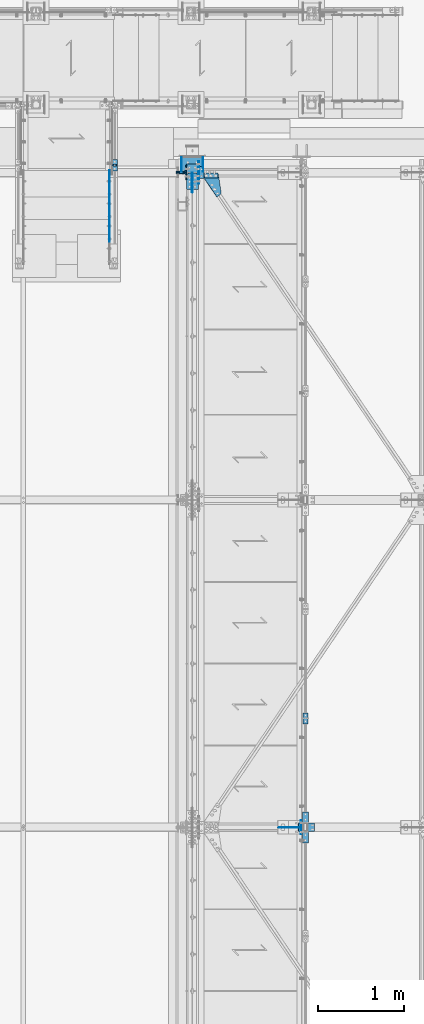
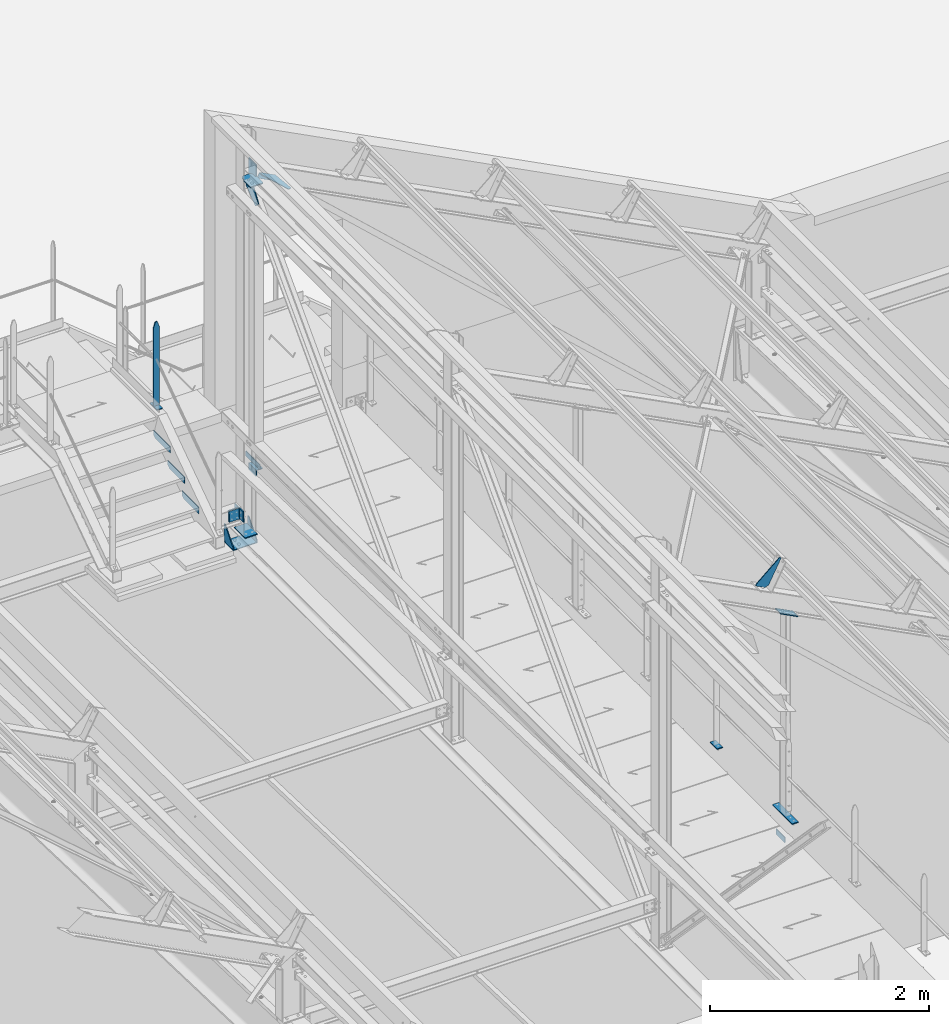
# One storey, part 92 of 362: 19 beams, 4 members, 17 elements without a shape of their own.
"""IFC2X3 building model written with IfcOpenShell, lengths in millimetres."""

from ifc_helpers import new_model, si_unit, frame, frame_2d, origin_with_axes, origin_2d_with_axis, place, context, subcontext, project, spatial, polyline, circle_curve, parameter, trimmed, segment, composite_curve, rectangle, l_section, outline, extrude, clip, halfspace, material, type_object, element, aggregate, save


model = new_model("IFC2X3")

# Units and contexts
model_context = context("Model", 3, precision=1e-05, world=origin_with_axes())
body_context = subcontext(model_context, "Body", "Model", "MODEL_VIEW")
ifc_project = project(units=[si_unit("LENGTHUNIT", "METRE", prefix="MILLI"), si_unit("AREAUNIT", "SQUARE_METRE"), si_unit("VOLUMEUNIT", "CUBIC_METRE"), si_unit("MASSUNIT", "GRAM", prefix="KILO"), si_unit("TIMEUNIT", "SECOND"), si_unit("PLANEANGLEUNIT", "RADIAN"), si_unit("SOLIDANGLEUNIT", "STERADIAN"), si_unit("THERMODYNAMICTEMPERATUREUNIT", "DEGREE_CELSIUS"), si_unit("LUMINOUSINTENSITYUNIT", "LUMEN")], contexts=[model_context])

# Site, building, storey
site_placement = place(None, origin_with_axes())
site = spatial("IfcSite", under=ifc_project, at=site_placement, Name="Undefined", CompositionType="ELEMENT")
building_placement = place(site_placement, origin_with_axes())
building = spatial("IfcBuilding", under=site, at=building_placement, Name="Undefined", CompositionType="ELEMENT")
storey_placement = place(building_placement, origin_with_axes())
storey = spatial("IfcBuildingStorey", under=building, at=storey_placement, Name="Undefined", CompositionType="ELEMENT", Elevation=0.0)

# Assembly, beams
assembly_1_placement = place(storey_placement, origin_with_axes())
assembly_1 = element("IfcElementAssembly", 1, at=assembly_1_placement, inside=storey, Name="MAIN COURANTE", AssemblyPlace="NOTDEFINED", PredefinedType="NOTDEFINED")
ifc_material = material(Name="Undefined/S235-E24")
beam_type_1 = type_object("IfcBeamType", Name="PL10*60", PredefinedType="NOTDEFINED")
beam_1_placement = place(assembly_1_placement, frame((22569.9936634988, 15350.0038033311, 8915.0), z_axis=(1.0, 0.0, 0.0), x_axis=(0.0, -1.0, 0.0)))
beam_1 = element("IfcBeam", 2, at=beam_1_placement, type_object=beam_type_1, material=ifc_material, Name="PLATINE", ObjectType="PL10*60", context=body_context, shape_type="SweptSolid", body=[
    extrude(rectangle(XDim=10.0, YDim=60.0, at=origin_2d_with_axis()), frame((130.0, 0.0, 0.0), z_axis=(-1.0, 0.0, 0.0), x_axis=(0.0, -1.0, 0.0)), (0.0, 0.0, 1.0), 130.0),
])
beam_2_placement = place(assembly_1_placement, frame((22569.9937887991, 15285.0038033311, 9857.59999847), z_axis=(0.999999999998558, -1.69800000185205e-06, 0.0), x_axis=(0.0, 0.0, -1.0)))
beam_2 = element("IfcBeam", 3, at=beam_2_placement, type_object=beam_type_1, material=ifc_material, Name="MONTANT", ObjectType="PL10*60", context=body_context, shape_type="Clipping", body=[
    clip(clip(extrude(rectangle(XDim=10.0, YDim=60.0, at=origin_2d_with_axis()), frame((937.599998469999, 0.0, 0.0), z_axis=(-1.0, 0.0, 0.0), x_axis=(0.0, -1.0, 0.0)), (0.0, 0.0, 1.0), 937.6), halfspace(frame((-119.999937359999, 4.99999999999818, -30.0), z_axis=(-0.316227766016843, 1.98085072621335e-06, 0.948683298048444), x_axis=(0.948683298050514, 0.0, 0.316227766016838)), False)), halfspace(frame((60.0, 5.0, -30.0), z_axis=(-0.316227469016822, -1.98084886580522e-06, -0.948683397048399), x_axis=(-0.948683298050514, 0.0, 0.316227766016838)), False)),
])
aggregate(assembly_1, [beam_1, beam_2])

# Assembly, beam
assembly_2_placement = place(storey_placement, origin_with_axes())
assembly_2 = element("IfcElementAssembly", 4, at=assembly_2_placement, inside=storey, Name="MAIN COURANTE", AssemblyPlace="NOTDEFINED", PredefinedType="NOTDEFINED")
beam_3_placement = place(assembly_2_placement, frame((24783.9916040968, 8930.00343957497, 8245.00000278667), z_axis=(-1.0, 0.0, 0.0), x_axis=(0.0, -1.0, 0.0)))
beam_3 = element("IfcBeam", 5, at=beam_3_placement, type_object=beam_type_1, material=ifc_material, Name="PLATINE", ObjectType="PL10*60", context=body_context, shape_type="SweptSolid", body=[
    extrude(rectangle(XDim=10.0, YDim=60.0, at=origin_2d_with_axis()), frame((130.0, 0.0, 0.0), z_axis=(-1.0, 0.0, 0.0), x_axis=(0.0, -1.0, 0.0)), (0.0, 0.0, 1.0), 130.0),
])
aggregate(assembly_2, [beam_3])

assembly_3_placement = place(storey_placement, origin_with_axes())
assembly_3 = element("IfcElementAssembly", 6, at=assembly_3_placement, inside=storey, Name="MARCHE", AssemblyPlace="NOTDEFINED", PredefinedType="NOTDEFINED")
beam_type_2 = type_object("IfcBeamType", Name="PL3*70", PredefinedType="NOTDEFINED")
beam_4_placement = place(assembly_3_placement, frame((22508.4947340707, 15224.9997910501, 8700.0), z_axis=(-1.0, 0.0, 0.0), x_axis=(0.0, 0.0, -1.0)))
beam_4 = element("IfcBeam", 7, at=beam_4_placement, type_object=beam_type_2, material=ifc_material, Name="PLAT MARCHE", ObjectType="PL3*70", context=body_context, shape_type="SweptSolid", body=[
    extrude(outline(polyline([(0.0, 0.0), (50.0, 0.0), (70.0, 30.0), (70.0, 310.0), (0.0, 310.0), (0.0, 0.0)])), frame((0.0, 0.0, -1.5), z_axis=(0.0, 0.0, 1.0), x_axis=(1.0, 0.0, 0.0)), (0.0, 0.0, 1.0), 3.0),
])
aggregate(assembly_3, [beam_4])

assembly_4_placement = place(storey_placement, origin_with_axes())
assembly_4 = element("IfcElementAssembly", 8, at=assembly_4_placement, inside=storey, Name="MARCHE", AssemblyPlace="NOTDEFINED", PredefinedType="NOTDEFINED")
beam_5_placement = place(assembly_4_placement, frame((22508.4947340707, 14964.9997910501, 8520.00000004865), z_axis=(-1.0, 0.0, 0.0), x_axis=(0.0, 0.0, -1.0)))
beam_5 = element("IfcBeam", 9, at=beam_5_placement, type_object=beam_type_2, material=ifc_material, Name="PLAT MARCHE", ObjectType="PL3*70", context=body_context, shape_type="SweptSolid", body=[
    extrude(outline(polyline([(0.0, 0.0), (50.0, 0.0), (70.0, 30.0), (70.0, 310.0), (0.0, 310.0), (0.0, 0.0)])), frame((0.0, 0.0, -1.5), z_axis=(0.0, 0.0, 1.0), x_axis=(1.0, 0.0, 0.0)), (0.0, 0.0, 1.0), 3.0),
])
aggregate(assembly_4, [beam_5])

assembly_5_placement = place(storey_placement, origin_with_axes())
assembly_5 = element("IfcElementAssembly", 10, at=assembly_5_placement, inside=storey, Name="MARCHE", AssemblyPlace="NOTDEFINED", PredefinedType="NOTDEFINED")
beam_6_placement = place(assembly_5_placement, frame((22508.4947340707, 14704.9997910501, 8340.00000007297), z_axis=(-1.0, 0.0, 0.0), x_axis=(0.0, 0.0, -1.0)))
beam_6 = element("IfcBeam", 11, at=beam_6_placement, type_object=beam_type_2, material=ifc_material, Name="PLAT MARCHE", ObjectType="PL3*70", context=body_context, shape_type="SweptSolid", body=[
    extrude(outline(polyline([(0.0, 0.0), (50.0, 0.0), (70.0, 30.0), (70.0, 310.0), (0.0, 310.0), (0.0, 0.0)])), frame((0.0, 0.0, -1.5), z_axis=(0.0, 0.0, 1.0), x_axis=(1.0, 0.0, 0.0)), (0.0, 0.0, 1.0), 3.0),
])
aggregate(assembly_5, [beam_6])

assembly_6_placement = place(storey_placement, origin_with_axes())
assembly_6 = element("IfcElementAssembly", 12, at=assembly_6_placement, inside=storey, AssemblyPlace="NOTDEFINED", PredefinedType="NOTDEFINED")
beam_type_3 = type_object("IfcBeamType", Name="L70*7", PredefinedType="NOTDEFINED")
beam_7_placement = place(assembly_6_placement, frame((23571.49994422, 15130.0, 7915.0), z_axis=(1.0, 0.0, 0.0), x_axis=(0.0, 1.0, 0.0)))
beam_7 = element("IfcBeam", 13, at=beam_7_placement, type_object=beam_type_3, material=ifc_material, Name="ATTACHE", ObjectType="L70*7", context=body_context, shape_type="SweptSolid", body=[
    extrude(l_section(Depth=70.0, Width=70.0, Thickness=7.0, FilletRadius=9.0, EdgeRadius=4.5, at=origin_2d_with_axis()), frame((140.0, 0.0, 0.0), z_axis=(-1.0, 0.0, 0.0), x_axis=(0.0, -1.0, 0.0)), (0.0, 0.0, 1.0), 140.0),
])
aggregate(assembly_6, [beam_7])

# Assembly, member
assembly_7_placement = place(storey_placement, origin_with_axes())
assembly_7 = element("IfcElementAssembly", 14, at=assembly_7_placement, inside=storey, AssemblyPlace="NOTDEFINED", PredefinedType="NOTDEFINED")
member_type_1 = type_object("IfcMemberType", Name="L60*6", PredefinedType="NOTDEFINED")
member_1_placement = place(assembly_7_placement, frame((23595.4976346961, 15167.0002649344, 11187.0657321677), z_axis=(0.0, -1.0, 0.0), x_axis=(0.887870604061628, 0.0, -0.460093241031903)))
member_1 = element("IfcMember", 15, at=member_1_placement, type_object=member_type_1, material=ifc_material, Name="ATTACHE", ObjectType="L60*6", context=body_context, shape_type="SweptSolid", body=[
    extrude(l_section(Depth=60.0, Width=60.0, Thickness=6.0, FilletRadius=8.0, EdgeRadius=4.0, at=origin_2d_with_axis()), frame((180.0, 0.0, 0.0), z_axis=(-1.0, 0.0, 0.0), x_axis=(0.0, -1.0, 0.0)), (0.0, 0.0, 1.0), 180.0),
])
aggregate(assembly_7, [member_1])

# Assembly, beam
assembly_8_placement = place(storey_placement, origin_with_axes())
assembly_8 = element("IfcElementAssembly", 16, at=assembly_8_placement, inside=storey, Name="PANNE SHED", AssemblyPlace="NOTDEFINED", PredefinedType="NOTDEFINED")
beam_type_4 = type_object("IfcBeamType", Name="TOLE8*140", PredefinedType="NOTDEFINED")
beam_8_placement = place(assembly_8_placement, frame((24474.5687197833, 7600.0, 10918.4966426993), z_axis=(0.0, -1.0, 0.0), x_axis=(-0.460093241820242, 0.0, -0.887870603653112)))
beam_8 = element("IfcBeam", 17, at=beam_8_placement, type_object=beam_type_4, material=ifc_material, Name="RAIDISSEUR", ObjectType="TOLE8*140", context=body_context, shape_type="SweptSolid", body=[
    extrude(outline(polyline([(0.0, 0.0), (19.9999999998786, -3.63797880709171e-12), (20.0000000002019, 109.999999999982), (-9.99999999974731, 139.99998998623), (-300.0000000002, 139.999893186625), (-300.000000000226, 119.999893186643), (0.0, 0.0)])), frame((0.0, 0.0, -4.0), z_axis=(0.0, 0.0, 1.0), x_axis=(1.0, 0.0, 0.0)), (0.0, 0.0, 1.0), 8.0),
])
aggregate(assembly_8, [beam_8])

assembly_9_placement = place(storey_placement, origin_with_axes())
assembly_9 = element("IfcElementAssembly", 18, at=assembly_9_placement, inside=storey, AssemblyPlace="NOTDEFINED", PredefinedType="NOTDEFINED")
beam_type_5 = type_object("IfcBeamType", Name="TOLE6*178", PredefinedType="NOTDEFINED")
beam_9_placement = place(assembly_9_placement, frame((23805.2586342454, 14957.1140605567, 11115.5355715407), z_axis=(-0.460093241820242, 0.0, -0.887870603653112), x_axis=(-0.706117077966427, -0.606225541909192, 0.365908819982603)))
beam_9 = element("IfcBeam", 19, at=beam_9_placement, type_object=beam_type_5, material=ifc_material, Name="GOUSSET", ObjectType="TOLE6*178", context=body_context, shape_type="SweptSolid", body=[
    extrude(outline(polyline([(0.0, 0.0), (70.0, 0.0), (70.0000000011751, 269.669891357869), (34.9265289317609, 315.681945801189), (-108.226165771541, 206.561325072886), (0.0, 0.0)])), frame((0.0, 0.0, -3.0), z_axis=(0.0, 0.0, 1.0), x_axis=(1.0, 0.0, 0.0)), (0.0, 0.0, 1.0), 6.0),
])
aggregate(assembly_9, [beam_9])

assembly_10_placement = place(storey_placement, origin_with_axes())
assembly_10 = element("IfcElementAssembly", 20, at=assembly_10_placement, inside=storey, Name="MONTANT", AssemblyPlace="NOTDEFINED", PredefinedType="NOTDEFINED")
beam_type_6 = type_object("IfcBeamType", Name="PL10*133", PredefinedType="NOTDEFINED")
beam_10_placement = place(assembly_10_placement, frame((23470.0, 15300.0, 7255.0), z_axis=(1.0, 0.0, 0.0), x_axis=(0.0, -1.0, 0.0)))
beam_10 = element("IfcBeam", 21, at=beam_10_placement, type_object=beam_type_6, material=ifc_material, Name="PLATINE", ObjectType="PL10*133", context=body_context, shape_type="SweptSolid", body=[
    extrude(rectangle(XDim=10.0, YDim=133.0, at=origin_2d_with_axis()), frame((200.0, 0.0, 0.0), z_axis=(-1.0, 0.0, 0.0), x_axis=(0.0, -1.0, 0.0)), (0.0, 0.0, 1.0), 200.0),
])

# Assembly, member
assembly_11_placement = place(storey_placement, origin_with_axes())
assembly_11 = element("IfcElementAssembly", 22, at=assembly_11_placement, inside=storey, AssemblyPlace="NOTDEFINED", PredefinedType="NOTDEFINED")
member_type_2 = type_object("IfcMemberType", Name="PL10*100", PredefinedType="NOTDEFINED")
member_2_placement = place(assembly_11_placement, frame((24701.7827800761, 7600.00000001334, 10536.0763720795), z_axis=(0.0, -1.0, 0.0), x_axis=(0.887870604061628, 0.0, -0.460093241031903)))
member_2 = element("IfcMember", 23, at=member_2_placement, type_object=member_type_2, material=ifc_material, Name="PLATINE", ObjectType="PL10*100", context=body_context, shape_type="SweptSolid", body=[
    extrude(rectangle(XDim=10.0, YDim=100.0, at=origin_2d_with_axis()), frame((210.000000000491, 0.0, 1.81898940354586e-12), z_axis=(-1.0, 0.0, 0.0), x_axis=(0.0, -1.0, 0.0)), (0.0, 0.0, 1.0), 210.0),
])

# Assembly, beam
assembly_12_placement = place(storey_placement, origin_with_axes())
assembly_12 = element("IfcElementAssembly", 24, at=assembly_12_placement, inside=storey, AssemblyPlace="NOTDEFINED", PredefinedType="NOTDEFINED")
beam_type_7 = type_object("IfcBeamType", Name="TOLE6*60", PredefinedType="NOTDEFINED")
beam_11_placement = place(assembly_12_placement, frame((24732.9916006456, 7520.0, 7985.0), z_axis=(-1.0, 0.0, 0.0), x_axis=(0.0, 0.0, 1.0)))
beam_11 = element("IfcBeam", 25, at=beam_11_placement, type_object=beam_type_7, material=ifc_material, Name="PLATINE", ObjectType="TOLE6*60", context=body_context, shape_type="SweptSolid", body=[
    extrude(outline(polyline([(0.0, 0.0), (60.0, 0.0), (60.0, 159.999984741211), (0.0, 159.999984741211), (0.0, 0.0)])), frame((0.0, 0.0, -3.0), z_axis=(0.0, 0.0, 1.0), x_axis=(1.0, 0.0, 0.0)), (0.0, 0.0, 1.0), 6.0),
])
aggregate(assembly_12, [beam_11])

assembly_13_placement = place(storey_placement, origin_with_axes())
assembly_13 = element("IfcElementAssembly", 26, at=assembly_13_placement, inside=storey, AssemblyPlace="NOTDEFINED", PredefinedType="NOTDEFINED")
beam_12_placement = place(assembly_13_placement, frame((23544.9918295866, 15070.0, 7985.0), z_axis=(-1.0, 0.0, 0.0), x_axis=(0.0, 0.0, 1.0)))
beam_12 = element("IfcBeam", 27, at=beam_12_placement, type_object=beam_type_7, material=ifc_material, Name="PLATINE", ObjectType="TOLE6*60", context=body_context, shape_type="SweptSolid", body=[
    extrude(outline(polyline([(0.0, 0.0), (60.0, 0.0), (60.0, 260.0), (0.0, 260.0), (0.0, 0.0)])), frame((0.0, 0.0, -3.0), z_axis=(0.0, 0.0, 1.0), x_axis=(1.0, 0.0, 0.0)), (0.0, 0.0, 1.0), 6.0),
])
aggregate(assembly_13, [beam_12])

# Beam
beam_type_8 = type_object("IfcBeamType", Name="PL10*70", PredefinedType="NOTDEFINED")
beam_13_placement = place(assembly_11_placement, frame((24783.9916006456, 7780.00010616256, 8245.00000367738), z_axis=(1.0, 0.0, 0.0), x_axis=(0.0, -1.0, 0.0)))
beam_13 = element("IfcBeam", 28, at=beam_13_placement, type_object=beam_type_8, material=ifc_material, Name="PLATINE", ObjectType="PL10*70", context=body_context, shape_type="SweptSolid", body=[
    extrude(rectangle(XDim=10.0, YDim=70.0, at=origin_2d_with_axis()), frame((360.000000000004, 0.0, 0.0), z_axis=(-1.0, 0.0, 0.0), x_axis=(0.0, -1.0, 0.0)), (0.0, 0.0, 1.0), 360.0),
])

aggregate(assembly_11, [member_2, beam_13])

# Assembly, beam
assembly_14_placement = place(storey_placement, origin_with_axes())
assembly_14 = element("IfcElementAssembly", 29, at=assembly_14_placement, inside=storey, Name="TRAVERSE SHED", AssemblyPlace="NOTDEFINED", PredefinedType="NOTDEFINED")
beam_type_9 = type_object("IfcBeamType", Name="PL10*140", PredefinedType="NOTDEFINED")
beam_14_placement = place(assembly_14_placement, frame((23541.5, 15200.0, 11360.8449760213), z_axis=(0.0, -1.0, 0.0), x_axis=(0.0, 0.0, -1.0)))
beam_14 = element("IfcBeam", 30, at=beam_14_placement, type_object=beam_type_9, material=ifc_material, Name="PLATINE", ObjectType="PL10*140", context=body_context, shape_type="SweptSolid", body=[
    extrude(rectangle(XDim=10.0, YDim=140.0, at=origin_2d_with_axis()), frame((215.684581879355, 0.0, 0.0), z_axis=(-1.0, 0.0, 0.0), x_axis=(0.0, -1.0, 0.0)), (0.0, 0.0, 1.0), 215.68),
])
aggregate(assembly_14, [beam_14])

# Assembly, member
assembly_15_placement = place(storey_placement, origin_with_axes())
assembly_15 = element("IfcElementAssembly", 31, at=assembly_15_placement, inside=storey, AssemblyPlace="NOTDEFINED", PredefinedType="NOTDEFINED")
member_type_3 = type_object("IfcMemberType", Name="L120*80*10", PredefinedType="NOTDEFINED")
member_3_placement = place(assembly_15_placement, frame((23343.5000000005, 15244.8643567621, 7540.89594029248), z_axis=(-1.0, 0.0, 0.0), x_axis=(-1.05403257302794e-09, -0.0314112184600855, -0.999506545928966)))
member_3 = element("IfcMember", 32, at=member_3_placement, type_object=member_type_3, material=ifc_material, Name="ATTACHE", ObjectType="L120*80*10", context=body_context, shape_type="SweptSolid", body=[
    extrude(l_section(Depth=120.0, Width=80.0, Thickness=10.0, FilletRadius=11.0, EdgeRadius=5.5, at=origin_2d_with_axis()), frame((120.0, 0.0, 0.0), z_axis=(-1.0, 0.0, 0.0), x_axis=(0.0, -1.0, 0.0)), (0.0, 0.0, 1.0), 120.0),
])
aggregate(assembly_15, [member_3])

assembly_16_placement = place(storey_placement, origin_with_axes())
assembly_16 = element("IfcElementAssembly", 33, at=assembly_16_placement, inside=storey, AssemblyPlace="NOTDEFINED", PredefinedType="NOTDEFINED")
member_4_placement = place(assembly_16_placement, frame((23343.5000000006, 15155.1365857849, 7423.65654661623), z_axis=(-1.0, 0.0, 0.0), x_axis=(7.58071938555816e-11, 0.0314107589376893, 0.999506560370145)))
member_4 = element("IfcMember", 34, at=member_4_placement, type_object=member_type_3, material=ifc_material, Name="ATTACHE", ObjectType="L120*80*10", context=body_context, shape_type="SweptSolid", body=[
    extrude(l_section(Depth=120.0, Width=80.0, Thickness=10.0, FilletRadius=11.0, EdgeRadius=5.5, at=origin_2d_with_axis()), frame((120.0, 0.0, 0.0), z_axis=(-1.0, 0.0, 0.0), x_axis=(0.0, -1.0, 0.0)), (0.0, 0.0, 1.0), 120.0),
])
aggregate(assembly_16, [member_4])

# Beam
beam_type_10 = type_object("IfcBeamType", Name="TOLE10*192", PredefinedType="NOTDEFINED")
beam_15_placement = place(assembly_10_placement, frame((23403.5, 15004.9969221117, 11231.0), z_axis=(0.0, 0.0, -1.0), x_axis=(0.0, 1.0, 0.0)))
beam_15 = element("IfcBeam", 35, at=beam_15_placement, type_object=beam_type_10, material=ifc_material, Name="PLAT", ObjectType="TOLE10*192", context=body_context, shape_type="SweptSolid", body=[
    extrude(outline(composite_curve([segment(trimmed(circle_curve(frame_2d((10.0, 10.0), x_axis=(-1.0, 0.0)), 10.0), [parameter(0.0)], [parameter(1.5707963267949)], True, "PARAMETER"), True, "CONTINUOUS"), segment(polyline([(9.99999999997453, 6.91215973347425e-11), (124.5, 0.0), (124.5, 9.0), (172.25, 9.0), (192.25, 29.0), (192.25, 104.0), (172.25, 124.0), (124.0, 124.0), (124.0, 140.0), (10.0, 140.0)]), True, "CONTINUOUS"), segment(trimmed(circle_curve(frame_2d((10.0, 130.0), x_axis=(0.0, 1.0)), 10.0), [parameter(0.0)], [parameter(1.5707963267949)], True, "PARAMETER"), True, "CONTINUOUS"), segment(polyline([(0.0, 130.0), (-1.81898940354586e-10, 10.0000000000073)]), True, "CONTINUOUS")], self_intersect=True)), frame((0.0, 0.0, -5.0), z_axis=(0.0, 0.0, 1.0), x_axis=(1.0, 0.0, 0.0)), (0.0, 0.0, 1.0), 10.0),
])

beam_type_11 = type_object("IfcBeamType", Name="TOLE8*235", PredefinedType="NOTDEFINED")
beam_16_placement = place(assembly_10_placement, frame((23470.0, 15079.9969221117, 11226.0), z_axis=(-1.0, 0.0, 0.0), x_axis=(0.0, 1.0, 0.0)))
beam_16 = element("IfcBeam", 36, at=beam_16_placement, type_object=beam_type_11, material=ifc_material, Name="GOUSSET", ObjectType="TOLE8*235", context=body_context, shape_type="SweptSolid", body=[
    extrude(outline(polyline([(0.0, 0.0), (97.25, 0.0), (117.25, 20.0), (117.25, 100.0), (-58.0505676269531, 234.738433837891), (-115.953956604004, 179.537002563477), (0.0, 0.0)])), frame((0.0, 0.0, -4.0), z_axis=(0.0, 0.0, 1.0), x_axis=(1.0, 0.0, 0.0)), (0.0, 0.0, 1.0), 8.0),
])

aggregate(assembly_10, [beam_16, beam_10, beam_15])

# Assembly, beams
assembly_17_placement = place(storey_placement, origin_with_axes())
assembly_17 = element("IfcElementAssembly", 37, at=assembly_17_placement, inside=storey, AssemblyPlace="NOTDEFINED", PredefinedType="NOTDEFINED")
beam_type_12 = type_object("IfcBeamType", Name="PL10*260", PredefinedType="NOTDEFINED")
beam_17_placement = place(assembly_17_placement, frame((23469.999999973, 15380.0000001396, 7074.00000068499), z_axis=(-1.0, 0.0, 0.0), x_axis=(0.0, -1.0, 0.0)))
beam_17 = element("IfcBeam", 38, at=beam_17_placement, type_object=beam_type_12, material=ifc_material, Name="SABOT", ObjectType="PL10*260", context=body_context, shape_type="SweptSolid", body=[
    extrude(rectangle(XDim=10.0, YDim=260.0, at=origin_2d_with_axis()), frame((169.99999962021, 0.0, 0.0), z_axis=(-1.0, 0.0, 0.0), x_axis=(0.0, -1.0, 0.0)), (0.0, 0.0, 1.0), 170.0),
])
beam_type_13 = type_object("IfcBeamType", Name="PL10*170", PredefinedType="NOTDEFINED")
beam_18_placement = place(assembly_17_placement, frame((23344.9999999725, 15210.0000005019, 7079.00000068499), z_axis=(-1.0, 0.0, 0.0), x_axis=(0.0, 0.0, 1.0)))
beam_18 = element("IfcBeam", 39, at=beam_18_placement, type_object=beam_type_13, material=ifc_material, Name="RAIDISSEUR", ObjectType="PL10*170", context=body_context, shape_type="SweptSolid", body=[
    extrude(outline(polyline([(0.0, 0.0), (19.9999999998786, -3.63797880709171e-12), (194.999206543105, 150.000000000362), (194.999145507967, 170.000000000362), (29.9999970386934, 170.00000000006), (-2.43872305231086e-06, 140.000000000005), (0.0, 0.0)])), frame((0.0, 0.0, -5.0), z_axis=(0.0, 0.0, 1.0), x_axis=(1.0, 0.0, 0.0)), (0.0, 0.0, 1.0), 10.0),
])
beam_19_placement = place(assembly_17_placement, frame((23594.9999999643, 15210.000000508, 7079.000000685), z_axis=(-1.0, 0.0, 0.0), x_axis=(0.0, 0.0, 1.0)))
beam_19 = element("IfcBeam", 40, at=beam_19_placement, type_object=beam_type_13, material=ifc_material, Name="RAIDISSEUR", ObjectType="PL10*170", context=body_context, shape_type="SweptSolid", body=[
    extrude(outline(polyline([(0.0, 0.0), (19.9999999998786, -3.63797880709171e-12), (194.999206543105, 150.000000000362), (194.999145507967, 170.000000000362), (29.9999970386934, 170.00000000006), (-2.43872305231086e-06, 140.000000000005), (0.0, 0.0)])), frame((0.0, 0.0, -5.0), z_axis=(0.0, 0.0, 1.0), x_axis=(1.0, 0.0, 0.0)), (0.0, 0.0, 1.0), 10.0),
])
aggregate(assembly_17, [beam_18, beam_19, beam_17])

save(model, "model.ifc")
